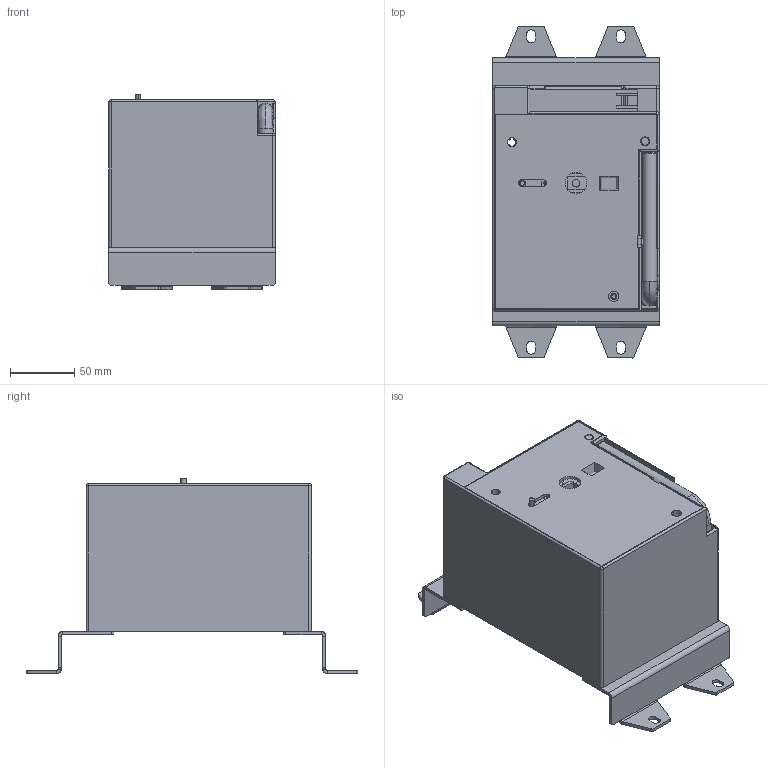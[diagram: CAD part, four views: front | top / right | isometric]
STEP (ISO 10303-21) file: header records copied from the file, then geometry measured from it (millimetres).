
FILE_DESCRIPTION (( 'STEP AP214' ), '1' );
FILE_NAME ('TGM1NE-CD2-800.STEP', '2025-12-11T10:26:37', ( '' ), ( '' ), 'SwSTEP 2.0', 'SolidWorks 2024', '' );
FILE_SCHEMA (( 'AUTOMOTIVE_DESIGN' ));
Length unit declared in the file: millimetre
Products named in the file (5): TGM1NE-800Q _________1.STEP; CD2-400-630____L_2.STEP; TGM1NE-CD2-800; TGM1NE-800H _________1.STEP; TGM1NE-CD2-800.STEP
Assembly tree (4 placements, depth 3):
  TGM1NE-CD2-800
    TGM1NE-CD2-800.STEP
      CD2-400-630____L_2.STEP
      TGM1NE-800H _________1.STEP
      TGM1NE-800Q _________1.STEP
Bounding box: 130 x 259.2 x 152.8 mm (x, y, z)
Volume: 488820.1 mm3; surface area: 346105.4 mm2
Topology: 10 solids, 10 shells, 1226 faces, 3292 edges, 2160 vertices
Faces by surface type: plane 641, cylinder 289, bspline 282, cone 12, torus 2
Entity records: 54240 total; most frequent: CARTESIAN_POINT 24683, ORIENTED_EDGE 6582, DIRECTION 5158, EDGE_CURVE 3291, VERTEX_POINT 2160, LINE 2124, VECTOR 2124, AXIS2_PLACEMENT_3D 1517
